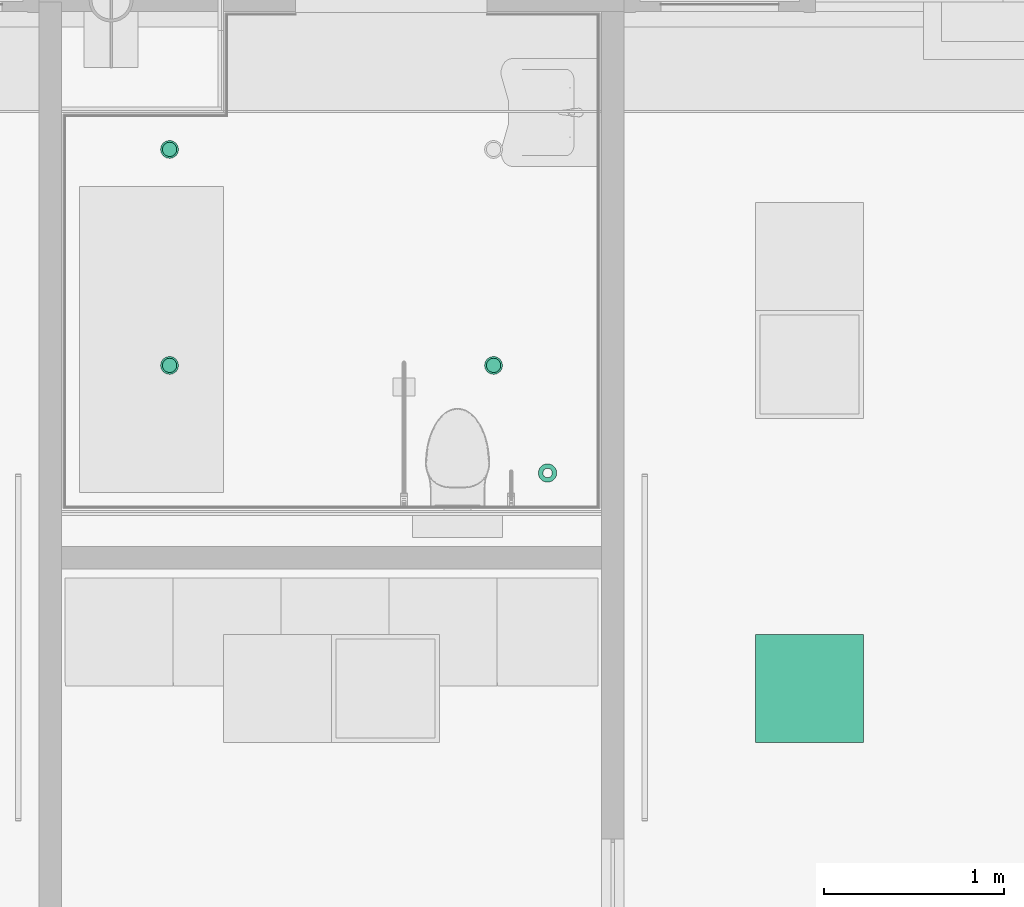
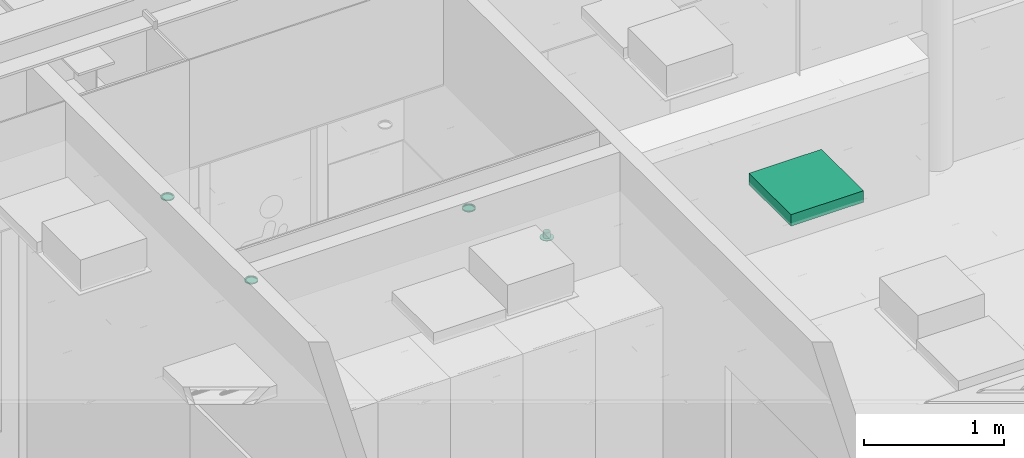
# One storey, part 203 of 347: 5 flow terminals.
"""IFC2X3 building model written with IfcOpenShell, lengths in millimetres."""

from ifc_helpers import new_model, entity, si_unit, converted_unit, derived_unit, money_unit, direction, frame, origin_with_axes, place, context, subcontext, project, spatial, open_shell, faceted_brep, surface_model, source, transform, mapped, type_object, type_shapes, element, save


model = new_model("IFC2X3")

# Units and contexts
model_context = context("Model", 3, precision=0.01, world=origin_with_axes(), true_north=direction((0.0, 1.0)))
plan_context = context("Plan", 3, precision=0.01, world=origin_with_axes(), true_north=direction((0.0, 1.0)))
body_context = subcontext(model_context, "Body", "Model", "MODEL_VIEW")
ifc_project = project(units=[si_unit("LENGTHUNIT", "METRE", prefix="MILLI"), si_unit("AREAUNIT", "SQUARE_METRE"), si_unit("VOLUMEUNIT", "CUBIC_METRE"), converted_unit("PLANEANGLEUNIT", "DEGREE", entity("IfcPlaneAngleMeasure", 0.0174532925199), si_unit("PLANEANGLEUNIT", "RADIAN"), dimensions=[0, 0, 0, 0, 0, 0, 0]), money_unit("EUR"), converted_unit("TIMEUNIT", "Year", entity("IfcTimeMeasure", 31556926.0), si_unit("TIMEUNIT", "SECOND"), dimensions=[0, 0, 1, 0, 0, 0, 0]), si_unit("MASSUNIT", "GRAM", prefix="KILO"), si_unit("THERMODYNAMICTEMPERATUREUNIT", "DEGREE_CELSIUS"), si_unit("LUMINOUSINTENSITYUNIT", "LUMEN"), si_unit("ENERGYUNIT", "JOULE", prefix="MEGA"), derived_unit("THERMALCONDUCTANCEUNIT", [(si_unit("POWERUNIT", "WATT"), 1), (si_unit("LENGTHUNIT", "METRE"), -1), (si_unit("THERMODYNAMICTEMPERATUREUNIT", "KELVIN"), -1)]), derived_unit("SPECIFICHEATCAPACITYUNIT", [(si_unit("ENERGYUNIT", "JOULE"), 1), (si_unit("MASSUNIT", "GRAM", prefix="KILO"), -1), (si_unit("THERMODYNAMICTEMPERATUREUNIT", "KELVIN"), -1)]), derived_unit("MASSDENSITYUNIT", [(si_unit("MASSUNIT", "GRAM", prefix="KILO"), 1), (si_unit("VOLUMEUNIT", "CUBIC_METRE"), -1)])], contexts=[model_context, plan_context])

# Site, building, storey
site_placement = place(None, origin_with_axes())
site = spatial("IfcSite", under=ifc_project, at=site_placement, Name="Site", CompositionType="ELEMENT")
building_placement = place(site_placement, origin_with_axes())
building = spatial("IfcBuilding", under=site, at=building_placement, Name="Naam gebouw", CompositionType="ELEMENT")
storey_placement = place(building_placement, origin_with_axes())
storey = spatial("IfcBuildingStorey", under=building, at=storey_placement, Name="begane grond", CompositionType="ELEMENT", Elevation=0.0)

# Flow terminals
lamp_type_1 = type_object("IfcLampType", Name="Spot plafond 01 25", PredefinedType="NOTDEFINED")
shared_shape_1 = source(origin_with_axes(), body_context, "Body", "SurfaceModel", [
    faceted_brep([(50.0, 0.0, -10.0), (46.1939766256, 19.1341716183, -10.0), (46.1939766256, 19.1341716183, 0.0), (50.0, 0.0, 0.0), (46.1939766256, -19.1341716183, -10.0), (35.3553390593, -35.3553390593, -10.0), (19.1341716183, -46.1939766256, -10.0), (0.0, -50.0, -10.0), (-19.1341716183, -46.1939766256, -10.0), (-35.3553390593, -35.3553390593, -10.0), (-46.1939766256, -19.1341716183, -10.0), (-50.0, 0.0, -10.0), (-46.1939766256, 19.1341716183, -10.0), (-35.3553390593, 35.3553390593, -10.0), (-19.1341716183, 46.1939766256, -10.0), (0.0, 50.0, -10.0), (19.1341716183, 46.1939766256, -10.0), (35.3553390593, 35.3553390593, -10.0), (40.0, 0.0, -10.0), (36.9551813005, 15.3073372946, -10.0), (28.2842712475, 28.2842712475, -10.0), (15.3073372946, 36.9551813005, -10.0), (0.0, 40.0, -10.0), (-15.3073372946, 36.9551813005, -10.0), (-28.2842712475, 28.2842712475, -10.0), (-36.9551813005, 15.3073372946, -10.0), (-40.0, 0.0, -10.0), (-36.9551813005, -15.3073372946, -10.0), (-28.2842712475, -28.2842712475, -10.0), (-15.3073372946, -36.9551813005, -10.0), (0.0, -40.0, -10.0), (15.3073372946, -36.9551813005, -10.0), (28.2842712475, -28.2842712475, -10.0), (36.9551813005, -15.3073372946, -10.0), (35.3553390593, 35.3553390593, 0.0), (19.1341716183, 46.1939766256, 0.0), (0.0, 50.0, 0.0), (-19.1341716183, 46.1939766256, 0.0), (-35.3553390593, 35.3553390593, 0.0), (-46.1939766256, 19.1341716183, 0.0), (-50.0, 0.0, 0.0), (-46.1939766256, -19.1341716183, 0.0), (-35.3553390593, -35.3553390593, 0.0), (-19.1341716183, -46.1939766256, 0.0), (0.0, -50.0, 0.0), (19.1341716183, -46.1939766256, 0.0), (35.3553390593, -35.3553390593, 0.0), (46.1939766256, -19.1341716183, 0.0), (40.0, 0.0, 0.0), (36.9551813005, -15.3073372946, 0.0), (28.2842712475, -28.2842712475, 0.0), (15.3073372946, -36.9551813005, 0.0), (0.0, -40.0, 0.0), (-15.3073372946, -36.9551813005, 0.0), (-28.2842712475, -28.2842712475, 0.0), (-36.9551813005, -15.3073372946, 0.0), (-40.0, 0.0, 0.0), (-36.9551813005, 15.3073372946, 0.0), (-28.2842712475, 28.2842712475, 0.0), (-15.3073372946, 36.9551813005, 0.0), (0.0, 40.0, 0.0), (15.3073372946, 36.9551813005, 0.0), (28.2842712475, 28.2842712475, 0.0), (36.9551813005, 15.3073372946, 0.0)], [[[0, 1, 2, 3]], [[0, 4, 5, 6, 7, 8, 9, 10, 11, 12, 13, 14, 15, 16, 17, 1], [18, 19, 20, 21, 22, 23, 24, 25, 26, 27, 28, 29, 30, 31, 32, 33]], [[1, 17, 34, 2]], [[3, 2, 34, 35, 36, 37, 38, 39, 40, 41, 42, 43, 44, 45, 46, 47], [48, 49, 50, 51, 52, 53, 54, 55, 56, 57, 58, 59, 60, 61, 62, 63]], [[4, 0, 3, 47]], [[5, 4, 47, 46]], [[6, 5, 46, 45]], [[7, 6, 45, 44]], [[8, 7, 44, 43]], [[9, 8, 43, 42]], [[10, 9, 42, 41]], [[11, 10, 41, 40]], [[12, 11, 40, 39]], [[13, 12, 39, 38]], [[14, 13, 38, 37]], [[15, 14, 37, 36]], [[16, 15, 36, 35]], [[17, 16, 35, 34]], [[19, 18, 48, 63]], [[20, 19, 63, 62]], [[21, 20, 62, 61]], [[22, 21, 61, 60]], [[23, 22, 60, 59]], [[24, 23, 59, 58]], [[25, 24, 58, 57]], [[26, 25, 57, 56]], [[27, 26, 56, 55]], [[28, 27, 55, 54]], [[29, 28, 54, 53]], [[30, 29, 53, 52]], [[31, 30, 52, 51]], [[32, 31, 51, 50]], [[33, 32, 50, 49]], [[18, 33, 49, 48]]]),
    surface_model("IfcShellBasedSurfaceModel", [(40.0, 0.0, -8.9), (36.9551813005, -15.3073372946, -8.9), (28.2842712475, -28.2842712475, -8.9), (15.3073372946, -36.9551813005, -8.9), (0.0, -40.0, -8.9), (-15.3073372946, -36.9551813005, -8.9), (-28.2842712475, -28.2842712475, -8.9), (-36.9551813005, -15.3073372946, -8.9), (-40.0, 0.0, -8.9), (-36.9551813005, 15.3073372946, -8.9), (-28.2842712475, 28.2842712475, -8.9), (-15.3073372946, 36.9551813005, -8.9), (0.0, 40.0, -8.9), (15.3073372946, 36.9551813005, -8.9), (28.2842712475, 28.2842712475, -8.9), (36.9551813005, 15.3073372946, -8.9)], [open_shell([[[0, 1, 2, 3, 4, 5, 6, 7, 8, 9, 10, 11, 12, 13, 14, 15]]])]),
])
type_shapes(lamp_type_1, [shared_shape_1])
for number, where, z_axis, x_axis, name in (
    (1, (26700.0, 10094.999986, 2600.0), (0.0, 0.0, 1.0), (1.0, 0.0, 0.0), "63_Lamp-x"),
    (2, (24900.0, 11294.999986, 2600.0), (0.0, 0.0, 1.0), (1.0, 0.0, 0.0), "63_Lamp-x"),
    (3, (24900.0, 10094.999986, 2600.0), (0.0, 0.0, 1.0), (1.0, 0.0, 0.0), "63_Lamp-x"),
):
    element("IfcFlowTerminal", number, at=place(storey_placement, frame(where, z_axis=z_axis, x_axis=x_axis)), inside=storey, type_object=lamp_type_1, Name=name, ObjectType="Lamp", context=body_context, shape_type="MappedRepresentation", body=[
        mapped(shared_shape_1, transform((0.0, 0.0, 0.0))),
    ])
lamp_type_2 = type_object("IfcLampType", Name="TL plafond 25", PredefinedType="NOTDEFINED")
shared_shape_2 = source(origin_with_axes(), body_context, "Body", "SurfaceModel", [
    faceted_brep([(0.0, 0.0, -100.0), (600.0, 0.0, -100.0), (600.0, 0.0, 0.0), (0.0, 0.0, 0.0), (0.0, 600.0, -100.0), (600.0, 600.0, -100.0), (40.0, 40.0, -100.0), (560.0, 40.0, -100.0), (560.0, 560.0, -100.0), (40.0, 560.0, -100.0), (600.0, 600.0, 0.0), (0.0, 600.0, 0.0), (40.0, 40.0, 0.0), (40.0, 560.0, 0.0), (560.0, 560.0, 0.0), (560.0, 40.0, 0.0)], [[[0, 1, 2, 3]], [[0, 4, 5, 1], [6, 7, 8, 9]], [[1, 5, 10, 2]], [[3, 2, 10, 11], [12, 13, 14, 15]], [[4, 0, 3, 11]], [[5, 4, 11, 10]], [[7, 6, 12, 15]], [[8, 7, 15, 14]], [[9, 8, 14, 13]], [[6, 9, 13, 12]]]),
    faceted_brep([(40.0, 40.0, -16.3333333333), (560.0, 40.0, -16.3333333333), (560.0, 40.0, 0.0), (40.0, 40.0, 0.0), (40.0, 560.0, -16.3333333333), (560.0, 560.0, -16.3333333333), (560.0, 560.0, 0.0), (40.0, 560.0, 0.0)], [[[0, 1, 2, 3]], [[0, 4, 5, 1]], [[1, 5, 6, 2]], [[3, 2, 6, 7]], [[4, 0, 3, 7]], [[5, 4, 7, 6]]]),
    surface_model("IfcShellBasedSurfaceModel", [(559.0, 41.0, -100.0), (40.0, 41.0, -100.0), (40.0, 559.0, -100.0), (559.0, 559.0, -100.0)], [open_shell([[[0, 1, 2, 3]]])]),
    faceted_brep([(40.0, 40.0, -100.0), (560.0, 40.0, -100.0), (560.0, 40.0, -60.0), (40.0, 40.0, -60.0), (40.0, 560.0, -100.0), (560.0, 560.0, -100.0), (41.0, 41.0, -100.0), (559.0, 41.0, -100.0), (559.0, 559.0, -100.0), (41.0, 559.0, -100.0), (560.0, 560.0, -60.0), (40.0, 560.0, -60.0), (41.0, 41.0, -60.0), (41.0, 559.0, -60.0), (559.0, 559.0, -60.0), (559.0, 41.0, -60.0)], [[[0, 1, 2, 3]], [[0, 4, 5, 1], [6, 7, 8, 9]], [[1, 5, 10, 2]], [[3, 2, 10, 11], [12, 13, 14, 15]], [[4, 0, 3, 11]], [[5, 4, 11, 10]], [[7, 6, 12, 15]], [[8, 7, 15, 14]], [[9, 8, 14, 13]], [[6, 9, 13, 12]]]),
    faceted_brep([(40.0, 144.0, -48.3333333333), (40.0, 149.740251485, -47.191526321), (560.0, 149.740251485, -47.191526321), (560.0, 144.0, -48.3333333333), (40.0, 138.259748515, -47.191526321), (40.0, 133.393398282, -43.9399350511), (40.0, 130.141807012, -39.0735848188), (40.0, 129.0, -33.3333333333), (40.0, 130.141807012, -27.5930818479), (40.0, 133.393398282, -22.7267316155), (40.0, 138.259748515, -19.4751403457), (40.0, 144.0, -18.3333333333), (40.0, 149.740251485, -19.4751403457), (40.0, 154.606601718, -22.7267316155), (40.0, 157.858192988, -27.5930818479), (40.0, 159.0, -33.3333333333), (40.0, 157.858192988, -39.0735848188), (40.0, 154.606601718, -43.9399350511), (40.0, 144.0, -46.3333333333), (40.0, 148.974884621, -45.343767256), (40.0, 153.192388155, -42.5257214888), (40.0, 156.010433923, -38.3082179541), (40.0, 157.0, -33.3333333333), (40.0, 156.010433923, -28.3584487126), (40.0, 153.192388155, -24.1409451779), (40.0, 148.974884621, -21.3228994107), (40.0, 144.0, -20.3333333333), (40.0, 139.025115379, -21.3228994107), (40.0, 134.807611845, -24.1409451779), (40.0, 131.989566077, -28.3584487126), (40.0, 131.0, -33.3333333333), (40.0, 131.989566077, -38.3082179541), (40.0, 134.807611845, -42.5257214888), (40.0, 139.025115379, -45.343767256), (560.0, 154.606601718, -43.9399350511), (560.0, 157.858192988, -39.0735848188), (560.0, 159.0, -33.3333333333), (560.0, 157.858192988, -27.5930818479), (560.0, 154.606601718, -22.7267316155), (560.0, 149.740251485, -19.4751403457), (560.0, 144.0, -18.3333333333), (560.0, 138.259748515, -19.4751403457), (560.0, 133.393398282, -22.7267316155), (560.0, 130.141807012, -27.5930818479), (560.0, 129.0, -33.3333333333), (560.0, 130.141807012, -39.0735848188), (560.0, 133.393398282, -43.9399350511), (560.0, 138.259748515, -47.191526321), (560.0, 144.0, -46.3333333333), (560.0, 139.025115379, -45.343767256), (560.0, 134.807611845, -42.5257214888), (560.0, 131.989566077, -38.3082179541), (560.0, 131.0, -33.3333333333), (560.0, 131.989566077, -28.3584487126), (560.0, 134.807611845, -24.1409451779), (560.0, 139.025115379, -21.3228994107), (560.0, 144.0, -20.3333333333), (560.0, 148.974884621, -21.3228994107), (560.0, 153.192388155, -24.1409451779), (560.0, 156.010433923, -28.3584487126), (560.0, 157.0, -33.3333333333), (560.0, 156.010433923, -38.3082179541), (560.0, 153.192388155, -42.5257214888), (560.0, 148.974884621, -45.343767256)], [[[0, 1, 2, 3]], [[0, 4, 5, 6, 7, 8, 9, 10, 11, 12, 13, 14, 15, 16, 17, 1], [18, 19, 20, 21, 22, 23, 24, 25, 26, 27, 28, 29, 30, 31, 32, 33]], [[1, 17, 34, 2]], [[3, 2, 34, 35, 36, 37, 38, 39, 40, 41, 42, 43, 44, 45, 46, 47], [48, 49, 50, 51, 52, 53, 54, 55, 56, 57, 58, 59, 60, 61, 62, 63]], [[4, 0, 3, 47]], [[5, 4, 47, 46]], [[6, 5, 46, 45]], [[7, 6, 45, 44]], [[8, 7, 44, 43]], [[9, 8, 43, 42]], [[10, 9, 42, 41]], [[11, 10, 41, 40]], [[12, 11, 40, 39]], [[13, 12, 39, 38]], [[14, 13, 38, 37]], [[15, 14, 37, 36]], [[16, 15, 36, 35]], [[17, 16, 35, 34]], [[19, 18, 48, 63]], [[20, 19, 63, 62]], [[21, 20, 62, 61]], [[22, 21, 61, 60]], [[23, 22, 60, 59]], [[24, 23, 59, 58]], [[25, 24, 58, 57]], [[26, 25, 57, 56]], [[27, 26, 56, 55]], [[28, 27, 55, 54]], [[29, 28, 54, 53]], [[30, 29, 53, 52]], [[31, 30, 52, 51]], [[32, 31, 51, 50]], [[33, 32, 50, 49]], [[18, 33, 49, 48]]]),
    faceted_brep([(40.0, 248.0, -48.3333333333), (40.0, 253.740251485, -47.191526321), (560.0, 253.740251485, -47.191526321), (560.0, 248.0, -48.3333333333), (40.0, 242.259748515, -47.191526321), (40.0, 237.393398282, -43.9399350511), (40.0, 234.141807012, -39.0735848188), (40.0, 233.0, -33.3333333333), (40.0, 234.141807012, -27.5930818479), (40.0, 237.393398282, -22.7267316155), (40.0, 242.259748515, -19.4751403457), (40.0, 248.0, -18.3333333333), (40.0, 253.740251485, -19.4751403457), (40.0, 258.606601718, -22.7267316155), (40.0, 261.858192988, -27.5930818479), (40.0, 263.0, -33.3333333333), (40.0, 261.858192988, -39.0735848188), (40.0, 258.606601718, -43.9399350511), (40.0, 248.0, -46.3333333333), (40.0, 252.974884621, -45.343767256), (40.0, 257.192388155, -42.5257214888), (40.0, 260.010433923, -38.3082179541), (40.0, 261.0, -33.3333333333), (40.0, 260.010433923, -28.3584487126), (40.0, 257.192388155, -24.1409451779), (40.0, 252.974884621, -21.3228994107), (40.0, 248.0, -20.3333333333), (40.0, 243.025115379, -21.3228994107), (40.0, 238.807611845, -24.1409451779), (40.0, 235.989566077, -28.3584487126), (40.0, 235.0, -33.3333333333), (40.0, 235.989566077, -38.3082179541), (40.0, 238.807611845, -42.5257214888), (40.0, 243.025115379, -45.343767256), (560.0, 258.606601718, -43.9399350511), (560.0, 261.858192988, -39.0735848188), (560.0, 263.0, -33.3333333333), (560.0, 261.858192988, -27.5930818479), (560.0, 258.606601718, -22.7267316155), (560.0, 253.740251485, -19.4751403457), (560.0, 248.0, -18.3333333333), (560.0, 242.259748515, -19.4751403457), (560.0, 237.393398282, -22.7267316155), (560.0, 234.141807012, -27.5930818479), (560.0, 233.0, -33.3333333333), (560.0, 234.141807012, -39.0735848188), (560.0, 237.393398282, -43.9399350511), (560.0, 242.259748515, -47.191526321), (560.0, 248.0, -46.3333333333), (560.0, 243.025115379, -45.343767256), (560.0, 238.807611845, -42.5257214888), (560.0, 235.989566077, -38.3082179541), (560.0, 235.0, -33.3333333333), (560.0, 235.989566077, -28.3584487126), (560.0, 238.807611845, -24.1409451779), (560.0, 243.025115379, -21.3228994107), (560.0, 248.0, -20.3333333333), (560.0, 252.974884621, -21.3228994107), (560.0, 257.192388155, -24.1409451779), (560.0, 260.010433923, -28.3584487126), (560.0, 261.0, -33.3333333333), (560.0, 260.010433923, -38.3082179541), (560.0, 257.192388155, -42.5257214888), (560.0, 252.974884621, -45.343767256)], [[[0, 1, 2, 3]], [[0, 4, 5, 6, 7, 8, 9, 10, 11, 12, 13, 14, 15, 16, 17, 1], [18, 19, 20, 21, 22, 23, 24, 25, 26, 27, 28, 29, 30, 31, 32, 33]], [[1, 17, 34, 2]], [[3, 2, 34, 35, 36, 37, 38, 39, 40, 41, 42, 43, 44, 45, 46, 47], [48, 49, 50, 51, 52, 53, 54, 55, 56, 57, 58, 59, 60, 61, 62, 63]], [[4, 0, 3, 47]], [[5, 4, 47, 46]], [[6, 5, 46, 45]], [[7, 6, 45, 44]], [[8, 7, 44, 43]], [[9, 8, 43, 42]], [[10, 9, 42, 41]], [[11, 10, 41, 40]], [[12, 11, 40, 39]], [[13, 12, 39, 38]], [[14, 13, 38, 37]], [[15, 14, 37, 36]], [[16, 15, 36, 35]], [[17, 16, 35, 34]], [[19, 18, 48, 63]], [[20, 19, 63, 62]], [[21, 20, 62, 61]], [[22, 21, 61, 60]], [[23, 22, 60, 59]], [[24, 23, 59, 58]], [[25, 24, 58, 57]], [[26, 25, 57, 56]], [[27, 26, 56, 55]], [[28, 27, 55, 54]], [[29, 28, 54, 53]], [[30, 29, 53, 52]], [[31, 30, 52, 51]], [[32, 31, 51, 50]], [[33, 32, 50, 49]], [[18, 33, 49, 48]]]),
    faceted_brep([(40.0, 352.0, -48.3333333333), (40.0, 357.740251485, -47.191526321), (560.0, 357.740251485, -47.191526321), (560.0, 352.0, -48.3333333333), (40.0, 346.259748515, -47.191526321), (40.0, 341.393398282, -43.9399350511), (40.0, 338.141807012, -39.0735848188), (40.0, 337.0, -33.3333333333), (40.0, 338.141807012, -27.5930818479), (40.0, 341.393398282, -22.7267316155), (40.0, 346.259748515, -19.4751403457), (40.0, 352.0, -18.3333333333), (40.0, 357.740251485, -19.4751403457), (40.0, 362.606601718, -22.7267316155), (40.0, 365.858192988, -27.5930818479), (40.0, 367.0, -33.3333333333), (40.0, 365.858192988, -39.0735848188), (40.0, 362.606601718, -43.9399350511), (40.0, 352.0, -46.3333333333), (40.0, 356.974884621, -45.343767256), (40.0, 361.192388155, -42.5257214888), (40.0, 364.010433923, -38.3082179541), (40.0, 365.0, -33.3333333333), (40.0, 364.010433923, -28.3584487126), (40.0, 361.192388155, -24.1409451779), (40.0, 356.974884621, -21.3228994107), (40.0, 352.0, -20.3333333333), (40.0, 347.025115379, -21.3228994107), (40.0, 342.807611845, -24.1409451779), (40.0, 339.989566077, -28.3584487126), (40.0, 339.0, -33.3333333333), (40.0, 339.989566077, -38.3082179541), (40.0, 342.807611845, -42.5257214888), (40.0, 347.025115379, -45.343767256), (560.0, 362.606601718, -43.9399350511), (560.0, 365.858192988, -39.0735848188), (560.0, 367.0, -33.3333333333), (560.0, 365.858192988, -27.5930818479), (560.0, 362.606601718, -22.7267316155), (560.0, 357.740251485, -19.4751403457), (560.0, 352.0, -18.3333333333), (560.0, 346.259748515, -19.4751403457), (560.0, 341.393398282, -22.7267316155), (560.0, 338.141807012, -27.5930818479), (560.0, 337.0, -33.3333333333), (560.0, 338.141807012, -39.0735848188), (560.0, 341.393398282, -43.9399350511), (560.0, 346.259748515, -47.191526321), (560.0, 352.0, -46.3333333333), (560.0, 347.025115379, -45.343767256), (560.0, 342.807611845, -42.5257214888), (560.0, 339.989566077, -38.3082179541), (560.0, 339.0, -33.3333333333), (560.0, 339.989566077, -28.3584487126), (560.0, 342.807611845, -24.1409451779), (560.0, 347.025115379, -21.3228994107), (560.0, 352.0, -20.3333333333), (560.0, 356.974884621, -21.3228994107), (560.0, 361.192388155, -24.1409451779), (560.0, 364.010433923, -28.3584487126), (560.0, 365.0, -33.3333333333), (560.0, 364.010433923, -38.3082179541), (560.0, 361.192388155, -42.5257214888), (560.0, 356.974884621, -45.343767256)], [[[0, 1, 2, 3]], [[0, 4, 5, 6, 7, 8, 9, 10, 11, 12, 13, 14, 15, 16, 17, 1], [18, 19, 20, 21, 22, 23, 24, 25, 26, 27, 28, 29, 30, 31, 32, 33]], [[1, 17, 34, 2]], [[3, 2, 34, 35, 36, 37, 38, 39, 40, 41, 42, 43, 44, 45, 46, 47], [48, 49, 50, 51, 52, 53, 54, 55, 56, 57, 58, 59, 60, 61, 62, 63]], [[4, 0, 3, 47]], [[5, 4, 47, 46]], [[6, 5, 46, 45]], [[7, 6, 45, 44]], [[8, 7, 44, 43]], [[9, 8, 43, 42]], [[10, 9, 42, 41]], [[11, 10, 41, 40]], [[12, 11, 40, 39]], [[13, 12, 39, 38]], [[14, 13, 38, 37]], [[15, 14, 37, 36]], [[16, 15, 36, 35]], [[17, 16, 35, 34]], [[19, 18, 48, 63]], [[20, 19, 63, 62]], [[21, 20, 62, 61]], [[22, 21, 61, 60]], [[23, 22, 60, 59]], [[24, 23, 59, 58]], [[25, 24, 58, 57]], [[26, 25, 57, 56]], [[27, 26, 56, 55]], [[28, 27, 55, 54]], [[29, 28, 54, 53]], [[30, 29, 53, 52]], [[31, 30, 52, 51]], [[32, 31, 51, 50]], [[33, 32, 50, 49]], [[18, 33, 49, 48]]]),
    faceted_brep([(40.0, 456.0, -48.3333333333), (40.0, 461.740251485, -47.191526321), (560.0, 461.740251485, -47.191526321), (560.0, 456.0, -48.3333333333), (40.0, 450.259748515, -47.191526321), (40.0, 445.393398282, -43.9399350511), (40.0, 442.141807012, -39.0735848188), (40.0, 441.0, -33.3333333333), (40.0, 442.141807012, -27.5930818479), (40.0, 445.393398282, -22.7267316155), (40.0, 450.259748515, -19.4751403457), (40.0, 456.0, -18.3333333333), (40.0, 461.740251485, -19.4751403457), (40.0, 466.606601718, -22.7267316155), (40.0, 469.858192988, -27.5930818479), (40.0, 471.0, -33.3333333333), (40.0, 469.858192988, -39.0735848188), (40.0, 466.606601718, -43.9399350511), (40.0, 456.0, -46.3333333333), (40.0, 460.974884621, -45.343767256), (40.0, 465.192388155, -42.5257214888), (40.0, 468.010433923, -38.3082179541), (40.0, 469.0, -33.3333333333), (40.0, 468.010433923, -28.3584487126), (40.0, 465.192388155, -24.1409451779), (40.0, 460.974884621, -21.3228994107), (40.0, 456.0, -20.3333333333), (40.0, 451.025115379, -21.3228994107), (40.0, 446.807611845, -24.1409451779), (40.0, 443.989566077, -28.3584487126), (40.0, 443.0, -33.3333333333), (40.0, 443.989566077, -38.3082179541), (40.0, 446.807611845, -42.5257214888), (40.0, 451.025115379, -45.343767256), (560.0, 466.606601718, -43.9399350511), (560.0, 469.858192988, -39.0735848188), (560.0, 471.0, -33.3333333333), (560.0, 469.858192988, -27.5930818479), (560.0, 466.606601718, -22.7267316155), (560.0, 461.740251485, -19.4751403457), (560.0, 456.0, -18.3333333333), (560.0, 450.259748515, -19.4751403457), (560.0, 445.393398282, -22.7267316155), (560.0, 442.141807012, -27.5930818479), (560.0, 441.0, -33.3333333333), (560.0, 442.141807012, -39.0735848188), (560.0, 445.393398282, -43.9399350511), (560.0, 450.259748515, -47.191526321), (560.0, 456.0, -46.3333333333), (560.0, 451.025115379, -45.343767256), (560.0, 446.807611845, -42.5257214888), (560.0, 443.989566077, -38.3082179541), (560.0, 443.0, -33.3333333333), (560.0, 443.989566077, -28.3584487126), (560.0, 446.807611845, -24.1409451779), (560.0, 451.025115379, -21.3228994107), (560.0, 456.0, -20.3333333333), (560.0, 460.974884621, -21.3228994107), (560.0, 465.192388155, -24.1409451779), (560.0, 468.010433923, -28.3584487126), (560.0, 469.0, -33.3333333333), (560.0, 468.010433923, -38.3082179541), (560.0, 465.192388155, -42.5257214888), (560.0, 460.974884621, -45.343767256)], [[[0, 1, 2, 3]], [[0, 4, 5, 6, 7, 8, 9, 10, 11, 12, 13, 14, 15, 16, 17, 1], [18, 19, 20, 21, 22, 23, 24, 25, 26, 27, 28, 29, 30, 31, 32, 33]], [[1, 17, 34, 2]], [[3, 2, 34, 35, 36, 37, 38, 39, 40, 41, 42, 43, 44, 45, 46, 47], [48, 49, 50, 51, 52, 53, 54, 55, 56, 57, 58, 59, 60, 61, 62, 63]], [[4, 0, 3, 47]], [[5, 4, 47, 46]], [[6, 5, 46, 45]], [[7, 6, 45, 44]], [[8, 7, 44, 43]], [[9, 8, 43, 42]], [[10, 9, 42, 41]], [[11, 10, 41, 40]], [[12, 11, 40, 39]], [[13, 12, 39, 38]], [[14, 13, 38, 37]], [[15, 14, 37, 36]], [[16, 15, 36, 35]], [[17, 16, 35, 34]], [[19, 18, 48, 63]], [[20, 19, 63, 62]], [[21, 20, 62, 61]], [[22, 21, 61, 60]], [[23, 22, 60, 59]], [[24, 23, 59, 58]], [[25, 24, 58, 57]], [[26, 25, 57, 56]], [[27, 26, 56, 55]], [[28, 27, 55, 54]], [[29, 28, 54, 53]], [[30, 29, 53, 52]], [[31, 30, 52, 51]], [[32, 31, 51, 50]], [[33, 32, 50, 49]], [[18, 33, 49, 48]]]),
])
type_shapes(lamp_type_2, [shared_shape_2])
flow_terminal_1_placement = place(storey_placement, frame((28155.0, 7999.99997201, 3295.0), z_axis=(0.0, 0.0, 1.0), x_axis=(1.0, 0.0, 0.0)))
element("IfcFlowTerminal", 4, at=flow_terminal_1_placement, inside=storey, type_object=lamp_type_2, Name="63_Lamp-x", ObjectType="Lamp", context=body_context, shape_type="MappedRepresentation", body=[
    mapped(shared_shape_2, transform((0.0, 0.0, 0.0))),
])
air_terminal_type = type_object("IfcAirTerminalType", Name="Rooster plafond rond 25", PredefinedType="GRILLE")
shared_shape_3 = source(origin_with_axes(), body_context, "Body", "SurfaceModel", [
    faceted_brep([(51.0, 0.0, -5.0), (49.2622171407, 13.1997713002, -5.0), (49.2622171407, 13.1997713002, 0.0), (51.0, 0.0, 0.0), (49.2622171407, -13.1997713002, -5.0), (44.167295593, -25.5, -5.0), (36.0624458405, -36.0624458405, -5.0), (25.5, -44.167295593, -5.0), (13.1997713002, -49.2622171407, -5.0), (0.0, -51.0, -5.0), (-13.1997713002, -49.2622171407, -5.0), (-25.5, -44.167295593, -5.0), (-36.0624458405, -36.0624458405, -5.0), (-44.167295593, -25.5, -5.0), (-49.2622171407, -13.1997713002, -5.0), (-51.0, 0.0, -5.0), (-49.2622171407, 13.1997713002, -5.0), (-44.167295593, 25.5, -5.0), (-36.0624458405, 36.0624458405, -5.0), (-25.5, 44.167295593, -5.0), (-13.1997713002, 49.2622171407, -5.0), (0.0, 51.0, -5.0), (13.1997713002, 49.2622171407, -5.0), (25.5, 44.167295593, -5.0), (36.0624458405, 36.0624458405, -5.0), (44.167295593, 25.5, -5.0), (26.0, 0.0, -5.0), (25.1140714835, 6.72929517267, -5.0), (22.5166604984, 13.0, -5.0), (18.3847763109, 18.3847763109, -5.0), (13.0, 22.5166604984, -5.0), (6.72929517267, 25.1140714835, -5.0), (0.0, 26.0, -5.0), (-6.72929517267, 25.1140714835, -5.0), (-13.0, 22.5166604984, -5.0), (-18.3847763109, 18.3847763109, -5.0), (-22.5166604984, 13.0, -5.0), (-25.1140714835, 6.72929517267, -5.0), (-26.0, 0.0, -5.0), (-25.1140714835, -6.72929517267, -5.0), (-22.5166604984, -13.0, -5.0), (-18.3847763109, -18.3847763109, -5.0), (-13.0, -22.5166604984, -5.0), (-6.72929517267, -25.1140714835, -5.0), (0.0, -26.0, -5.0), (6.72929517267, -25.1140714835, -5.0), (13.0, -22.5166604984, -5.0), (18.3847763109, -18.3847763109, -5.0), (22.5166604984, -13.0, -5.0), (25.1140714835, -6.72929517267, -5.0), (44.167295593, 25.5, 0.0), (36.0624458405, 36.0624458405, 0.0), (25.5, 44.167295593, 0.0), (13.1997713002, 49.2622171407, 0.0), (0.0, 51.0, 0.0), (-13.1997713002, 49.2622171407, 0.0), (-25.5, 44.167295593, 0.0), (-36.0624458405, 36.0624458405, 0.0), (-44.167295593, 25.5, 0.0), (-49.2622171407, 13.1997713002, 0.0), (-51.0, 0.0, 0.0), (-49.2622171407, -13.1997713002, 0.0), (-44.167295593, -25.5, 0.0), (-36.0624458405, -36.0624458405, 0.0), (-25.5, -44.167295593, 0.0), (-13.1997713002, -49.2622171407, 0.0), (0.0, -51.0, 0.0), (13.1997713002, -49.2622171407, 0.0), (25.5, -44.167295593, 0.0), (36.0624458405, -36.0624458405, 0.0), (44.167295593, -25.5, 0.0), (49.2622171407, -13.1997713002, 0.0), (26.0, 0.0, 0.0), (25.1140714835, -6.72929517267, 0.0), (22.5166604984, -13.0, 0.0), (18.3847763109, -18.3847763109, 0.0), (13.0, -22.5166604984, 0.0), (6.72929517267, -25.1140714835, 0.0), (0.0, -26.0, 0.0), (-6.72929517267, -25.1140714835, 0.0), (-13.0, -22.5166604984, 0.0), (-18.3847763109, -18.3847763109, 0.0), (-22.5166604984, -13.0, 0.0), (-25.1140714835, -6.72929517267, 0.0), (-26.0, 0.0, 0.0), (-25.1140714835, 6.72929517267, 0.0), (-22.5166604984, 13.0, 0.0), (-18.3847763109, 18.3847763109, 0.0), (-13.0, 22.5166604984, 0.0), (-6.72929517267, 25.1140714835, 0.0), (0.0, 26.0, 0.0), (6.72929517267, 25.1140714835, 0.0), (13.0, 22.5166604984, 0.0), (18.3847763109, 18.3847763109, 0.0), (22.5166604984, 13.0, 0.0), (25.1140714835, 6.72929517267, 0.0)], [[[0, 1, 2, 3]], [[0, 4, 5, 6, 7, 8, 9, 10, 11, 12, 13, 14, 15, 16, 17, 18, 19, 20, 21, 22, 23, 24, 25, 1], [26, 27, 28, 29, 30, 31, 32, 33, 34, 35, 36, 37, 38, 39, 40, 41, 42, 43, 44, 45, 46, 47, 48, 49]], [[1, 25, 50, 2]], [[3, 2, 50, 51, 52, 53, 54, 55, 56, 57, 58, 59, 60, 61, 62, 63, 64, 65, 66, 67, 68, 69, 70, 71], [72, 73, 74, 75, 76, 77, 78, 79, 80, 81, 82, 83, 84, 85, 86, 87, 88, 89, 90, 91, 92, 93, 94, 95]], [[4, 0, 3, 71]], [[5, 4, 71, 70]], [[6, 5, 70, 69]], [[7, 6, 69, 68]], [[8, 7, 68, 67]], [[9, 8, 67, 66]], [[10, 9, 66, 65]], [[11, 10, 65, 64]], [[12, 11, 64, 63]], [[13, 12, 63, 62]], [[14, 13, 62, 61]], [[15, 14, 61, 60]], [[16, 15, 60, 59]], [[17, 16, 59, 58]], [[18, 17, 58, 57]], [[19, 18, 57, 56]], [[20, 19, 56, 55]], [[21, 20, 55, 54]], [[22, 21, 54, 53]], [[23, 22, 53, 52]], [[24, 23, 52, 51]], [[25, 24, 51, 50]], [[27, 26, 72, 95]], [[28, 27, 95, 94]], [[29, 28, 94, 93]], [[30, 29, 93, 92]], [[31, 30, 92, 91]], [[32, 31, 91, 90]], [[33, 32, 90, 89]], [[34, 33, 89, 88]], [[35, 34, 88, 87]], [[36, 35, 87, 86]], [[37, 36, 86, 85]], [[38, 37, 85, 84]], [[39, 38, 84, 83]], [[40, 39, 83, 82]], [[41, 40, 82, 81]], [[42, 41, 81, 80]], [[43, 42, 80, 79]], [[44, 43, 79, 78]], [[45, 44, 78, 77]], [[46, 45, 77, 76]], [[47, 46, 76, 75]], [[48, 47, 75, 74]], [[49, 48, 74, 73]], [[26, 49, 73, 72]]]),
    surface_model("IfcShellBasedSurfaceModel", [(0.0, -26.0, 0.0), (6.72929517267, -25.1140714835, 0.0), (6.72929517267, -25.1140714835, 50.0), (0.0, -26.0, 50.0), (13.0, -22.5166604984, 0.0), (13.0, -22.5166604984, 50.0), (-6.72929517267, -25.1140714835, 0.0), (-6.72929517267, -25.1140714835, 50.0), (18.3847763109, -18.3847763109, 0.0), (18.3847763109, -18.3847763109, 50.0), (-13.0, -22.5166604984, 0.0), (-13.0, -22.5166604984, 50.0), (22.5166604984, -13.0, 0.0), (22.5166604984, -13.0, 50.0), (-18.3847763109, -18.3847763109, 0.0), (-18.3847763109, -18.3847763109, 50.0), (25.1140714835, -6.72929517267, 0.0), (25.1140714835, -6.72929517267, 50.0), (-22.5166604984, -13.0, 0.0), (-22.5166604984, -13.0, 50.0), (26.0, 0.0, 0.0), (26.0, 0.0, 50.0), (-25.1140714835, -6.72929517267, 0.0), (-25.1140714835, -6.72929517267, 50.0), (25.1140714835, 6.72929517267, 0.0), (25.1140714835, 6.72929517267, 50.0), (-26.0, 0.0, 0.0), (-26.0, 0.0, 50.0), (22.5166604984, 13.0, 0.0), (22.5166604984, 13.0, 50.0), (-25.1140714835, 6.72929517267, 0.0), (-25.1140714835, 6.72929517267, 50.0), (18.3847763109, 18.3847763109, 0.0), (18.3847763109, 18.3847763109, 50.0), (-22.5166604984, 13.0, 0.0), (-22.5166604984, 13.0, 50.0), (13.0, 22.5166604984, 0.0), (13.0, 22.5166604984, 50.0), (-18.3847763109, 18.3847763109, 0.0), (-18.3847763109, 18.3847763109, 50.0), (6.72929517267, 25.1140714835, 0.0), (6.72929517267, 25.1140714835, 50.0), (-13.0, 22.5166604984, 0.0), (-13.0, 22.5166604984, 50.0), (0.0, 26.0, 0.0), (0.0, 26.0, 50.0), (-6.72929517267, 25.1140714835, 0.0), (-6.72929517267, 25.1140714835, 50.0)], [open_shell([[[0, 1, 2, 3]], [[1, 4, 5, 2]], [[6, 0, 3, 7]], [[4, 8, 9, 5]], [[10, 6, 7, 11]], [[8, 12, 13, 9]], [[14, 10, 11, 15]], [[12, 16, 17, 13]], [[18, 14, 15, 19]], [[16, 20, 21, 17]], [[22, 18, 19, 23]], [[20, 24, 25, 21]], [[26, 22, 23, 27]], [[24, 28, 29, 25]], [[30, 26, 27, 31]], [[28, 32, 33, 29]], [[34, 30, 31, 35]], [[32, 36, 37, 33]], [[38, 34, 35, 39]], [[36, 40, 41, 37]], [[42, 38, 39, 43]], [[40, 44, 45, 41]], [[46, 42, 43, 47]], [[44, 46, 47, 45]]])]),
])
type_shapes(air_terminal_type, [shared_shape_3])
flow_terminal_2_placement = place(storey_placement, frame((27000.0036805, 9497.101564, 2600.0), z_axis=(0.0, 0.0, 1.0), x_axis=(1.0, 0.0, 0.0)))
element("IfcFlowTerminal", 5, at=flow_terminal_2_placement, inside=storey, type_object=air_terminal_type, Name="57_78 garderobe", context=body_context, shape_type="MappedRepresentation", body=[
    mapped(shared_shape_3, transform((0.0, 0.0, 0.0))),
])

save(model, "model.ifc")
